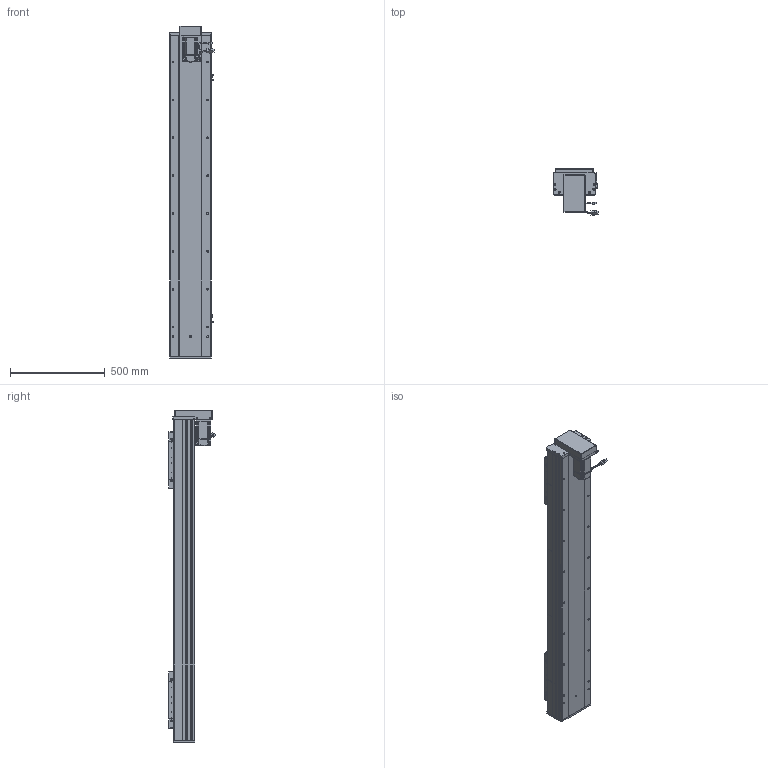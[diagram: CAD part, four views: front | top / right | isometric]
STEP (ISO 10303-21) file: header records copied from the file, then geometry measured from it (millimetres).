
FILE_DESCRIPTION (( 'STEP AP203' ), '1' );
FILE_NAME ('RY220F-L2525-800-BK-邧嶺.SLDASM_1250.step', '2022-08-06T08:08:00', ( '' ), ( '' ), 'SwSTEP 2.0', 'SolidWorks 2016', '' );
FILE_SCHEMA (( 'CONFIG_CONTROL_DESIGN' ));
Length unit declared in the file: millimetre
Products named in the file (15): RY220F蛌殏菁釱-800-邧嶺_1250; 侐源滅袉蝶; RY220F-祥凄詩湍-蛌殏-800_1250; 覜茼ん672; RY220F-蛌殏奻裔啣-800_1250; RY220F臏賑釱25-32佪裝; RY220F-L2525-800-BK-邧嶺.SLDASM_1250; RY220狟殏萇儂欶; 滅袉蝶18-24; RY220F-滅鳥奻裔; RY220狟殏萇儂假蚾啣; RY220F-672覜茼んえ; RY220F綴裔啣; RY220F-詩湍揤踡輸; 怢湛750W_ECMA-CX0807ES
Assembly tree (24 placements, depth 2):
  RY220F-L2525-800-BK-邧嶺.SLDASM_1250
    RY220F蛌殏菁釱-800-邧嶺_1250
    RY220F-蛌殏奻裔啣-800_1250  x2
    怢湛750W_ECMA-CX0807ES
    RY220F臏賑釱25-32佪裝  x2
    RY220F-滅鳥奻裔  x2
    滅袉蝶18-24  x3
    RY220F綴裔啣
    RY220F-祥凄詩湍-蛌殏-800_1250
    RY220F-詩湍揤踡輸  x2
    覜茼ん672  x3
    RY220F-672覜茼んえ  x2
    侐源滅袉蝶  x2
    RY220狟殏萇儂假蚾啣
    RY220狟殏萇儂欶
Bounding box: 237.27 x 247.24 x 1753 mm (x, y, z)
Volume: 16245585.6 mm3; surface area: 4227316.7 mm2
Topology: 25 solids, 25 shells, 2819 faces, 7654 edges, 4723 vertices
Faces by surface type: cylinder 1258, plane 1062, cone 428, bspline 45, sphere 16, torus 10
Entity records: 69997 total; most frequent: CARTESIAN_POINT 18877, ORIENTED_EDGE 10322, DIRECTION 10061, EDGE_CURVE 5161, AXIS2_PLACEMENT_3D 3574, VERTEX_POINT 3339, VECTOR 2913, LINE 2913
